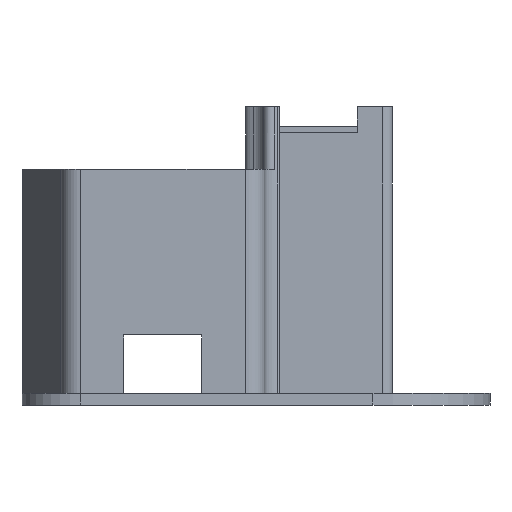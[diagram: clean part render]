
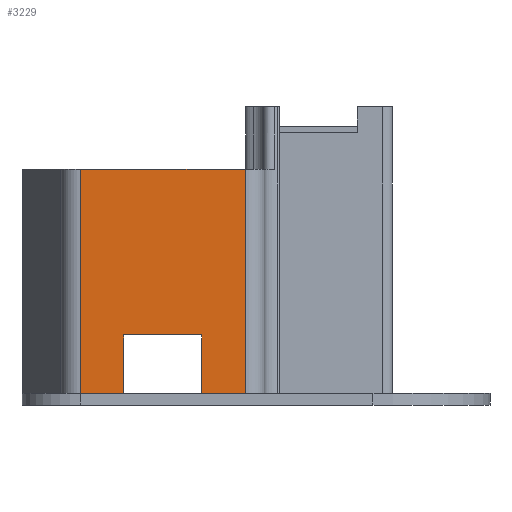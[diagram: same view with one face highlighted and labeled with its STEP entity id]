
A CAD part, left-side view. The second image highlights one B-rep face of the part: STEP entity #3229.
In plain terms, the highlighted planar face has unit normal (-1, 0, 0).
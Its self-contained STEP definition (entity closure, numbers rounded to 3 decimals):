
#751=ORIENTED_EDGE('',*,*,#1452,.T.);
#752=ORIENTED_EDGE('',*,*,#1387,.F.);
#753=ORIENTED_EDGE('',*,*,#1293,.T.);
#754=ORIENTED_EDGE('',*,*,#1386,.T.);
#755=ORIENTED_EDGE('',*,*,#1490,.T.);
#756=ORIENTED_EDGE('',*,*,#1553,.F.);
#757=ORIENTED_EDGE('',*,*,#1583,.F.);
#758=ORIENTED_EDGE('',*,*,#1581,.T.);
#1293=EDGE_CURVE('',#1778,#1777,#2099,.T.);
#1386=EDGE_CURVE('',#1777,#1861,#2154,.T.);
#1387=EDGE_CURVE('',#1778,#1862,#2155,.T.);
#1452=EDGE_CURVE('',#1915,#1862,#2190,.T.);
#1490=EDGE_CURVE('',#1861,#1940,#2210,.T.);
#1553=EDGE_CURVE('',#1972,#1940,#2239,.T.);
#1581=EDGE_CURVE('',#1986,#1915,#2261,.T.);
#1583=EDGE_CURVE('',#1986,#1972,#2262,.T.);
#1777=VERTEX_POINT('',#4431);
#1778=VERTEX_POINT('',#4433);
#1861=VERTEX_POINT('',#4715);
#1862=VERTEX_POINT('',#4719);
#1915=VERTEX_POINT('',#4905);
#1940=VERTEX_POINT('',#5003);
#1972=VERTEX_POINT('',#5252);
#1986=VERTEX_POINT('',#5311);
#2099=LINE('',#4432,#2401);
#2154=LINE('',#4716,#2456);
#2155=LINE('',#4718,#2457);
#2190=LINE('',#4904,#2492);
#2210=LINE('',#5004,#2512);
#2239=LINE('',#5253,#2541);
#2261=LINE('',#5310,#2563);
#2262=LINE('',#5314,#2564);
#2401=VECTOR('',#3630,1000.);
#2456=VECTOR('',#3739,1000.);
#2457=VECTOR('',#3742,1000.);
#2492=VECTOR('',#3845,1000.);
#2512=VECTOR('',#3889,1000.);
#2541=VECTOR('',#3954,1000.);
#2563=VECTOR('',#4012,1000.);
#2564=VECTOR('',#4017,1000.);
#2738=EDGE_LOOP('',(#751,#752,#753,#754,#755,#756,#757,#758));
#2940=FACE_BOUND('',#2738,.T.);
#3107=PLANE('',#3460);
#3229=ADVANCED_FACE('',(#2940),#3107,.F.);
#3460=AXIS2_PLACEMENT_3D('',#5313,#4015,#4016);
#3630=DIRECTION('',(0.,-1.,0.));
#3739=DIRECTION('',(0.,0.,-1.));
#3742=DIRECTION('',(0.,0.,-1.));
#3845=DIRECTION('',(0.,-1.,0.));
#3889=DIRECTION('',(0.,-1.,0.));
#3954=DIRECTION('',(0.,0.,-1.));
#4012=DIRECTION('',(0.,0.,-1.));
#4015=DIRECTION('',(1.,0.,0.));
#4016=DIRECTION('',(0.,0.,-1.));
#4017=DIRECTION('',(0.,-1.,0.));
#4431=CARTESIAN_POINT('',(-82.25,-10.,18.));
#4432=CARTESIAN_POINT('',(-82.25,0.,18.));
#4433=CARTESIAN_POINT('',(-82.25,10.,18.));
#4715=CARTESIAN_POINT('',(-82.25,-10.,3.));
#4716=CARTESIAN_POINT('',(-82.25,-10.,28.));
#4718=CARTESIAN_POINT('',(-82.25,10.,28.));
#4719=CARTESIAN_POINT('',(-82.25,10.,3.));
#4904=CARTESIAN_POINT('',(-82.25,15.563,3.));
#4905=CARTESIAN_POINT('',(-82.25,21.125,3.));
#5003=CARTESIAN_POINT('',(-82.25,-21.125,3.));
#5004=CARTESIAN_POINT('',(-82.25,-15.563,3.));
#5252=CARTESIAN_POINT('',(-82.25,-21.125,60.5));
#5253=CARTESIAN_POINT('',(-82.25,-21.125,28.));
#5310=CARTESIAN_POINT('',(-82.25,21.125,28.));
#5311=CARTESIAN_POINT('',(-82.25,21.125,60.5));
#5313=CARTESIAN_POINT('',(-82.25,15.563,28.));
#5314=CARTESIAN_POINT('',(-82.25,-15.563,60.5));
